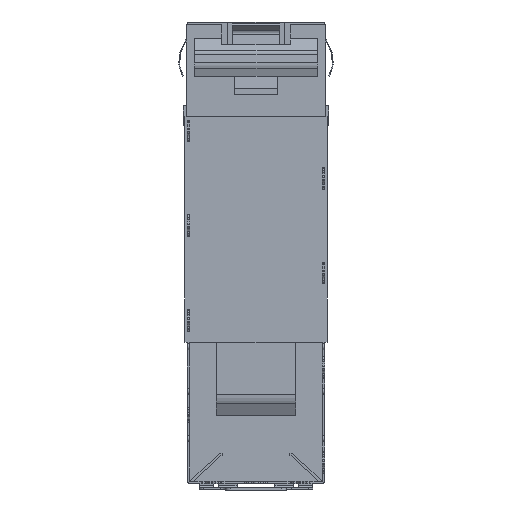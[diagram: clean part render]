
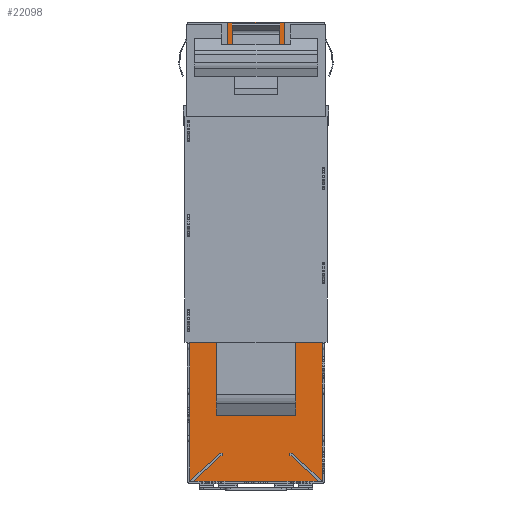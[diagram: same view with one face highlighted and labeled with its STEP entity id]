
A CAD part, front view. The second image highlights one B-rep face of the part: STEP entity #22098.
In plain terms, the highlighted planar face has unit normal (0, -1, 0).
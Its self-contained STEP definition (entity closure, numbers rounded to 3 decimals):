
#51 = FACE_BOUND ( 'NONE', #11834, .T. ) ;
#477 = CARTESIAN_POINT ( 'NONE',  ( 7., 9.2, -65.366 ) ) ;
#1217 = EDGE_CURVE ( 'NONE', #17983, #20127, #8723, .T. ) ;
#1252 = EDGE_LOOP ( 'NONE', ( #17056, #12705, #21107, #11692 ) ) ;
#1574 = VERTEX_POINT ( 'NONE', #14200 ) ;
#2093 = LINE ( 'NONE', #16877, #18791 ) ;
#2618 = LINE ( 'NONE', #13310, #7807 ) ;
#2710 = DIRECTION ( 'NONE',  ( 0., 1., 0. ) ) ;
#2855 = VECTOR ( 'NONE', #15962, 1000. ) ;
#2978 = VERTEX_POINT ( 'NONE', #11458 ) ;
#4453 = ORIENTED_EDGE ( 'NONE', *, *, #20173, .T. ) ;
#4786 = EDGE_CURVE ( 'NONE', #15671, #25238, #9896, .T. ) ;
#5354 = AXIS2_PLACEMENT_3D ( 'NONE', #477, #2710, #17948 ) ;
#6281 = CARTESIAN_POINT ( 'NONE',  ( 7., 9.2, -16.848 ) ) ;
#7067 = VECTOR ( 'NONE', #25056, 1000. ) ;
#7409 = EDGE_CURVE ( 'NONE', #1574, #15671, #17507, .T. ) ;
#7807 = VECTOR ( 'NONE', #19678, 1000. ) ;
#8216 = VECTOR ( 'NONE', #23556, 1000. ) ;
#8437 = DIRECTION ( 'NONE',  ( 1., 0., 0. ) ) ;
#8582 = CARTESIAN_POINT ( 'NONE',  ( 7., 9.2, -41.552 ) ) ;
#8723 = LINE ( 'NONE', #27671, #2855 ) ;
#9305 = EDGE_CURVE ( 'NONE', #20127, #20959, #14051, .T. ) ;
#9896 = LINE ( 'NONE', #8582, #20678 ) ;
#10471 = DIRECTION ( 'NONE',  ( -1., 0., 0. ) ) ;
#11458 = CARTESIAN_POINT ( 'NONE',  ( 7., 9.2, 0. ) ) ;
#11668 = ORIENTED_EDGE ( 'NONE', *, *, #4786, .F. ) ;
#11692 = ORIENTED_EDGE ( 'NONE', *, *, #1217, .F. ) ;
#11834 = EDGE_LOOP ( 'NONE', ( #23421, #4453, #11668, #21424 ) ) ;
#12698 = CARTESIAN_POINT ( 'NONE',  ( 7., 9.2, -48.5 ) ) ;
#12705 = ORIENTED_EDGE ( 'NONE', *, *, #22918, .T. ) ;
#13043 = CARTESIAN_POINT ( 'NONE',  ( -4.2, 9.2, -65.366 ) ) ;
#13082 = DIRECTION ( 'NONE',  ( 0., 0., -1. ) ) ;
#13134 = CARTESIAN_POINT ( 'NONE',  ( -7., 9.2, -48.5 ) ) ;
#13310 = CARTESIAN_POINT ( 'NONE',  ( 4.2, 9.2, -65.366 ) ) ;
#13412 = VERTEX_POINT ( 'NONE', #15535 ) ;
#14051 = LINE ( 'NONE', #17646, #17730 ) ;
#14200 = CARTESIAN_POINT ( 'NONE',  ( -4.2, 9.2, -16.848 ) ) ;
#14227 = LINE ( 'NONE', #22912, #7067 ) ;
#14296 = CARTESIAN_POINT ( 'NONE',  ( 4.2, 9.2, -41.552 ) ) ;
#14396 = CARTESIAN_POINT ( 'NONE',  ( -4.2, 9.2, -41.552 ) ) ;
#15535 = CARTESIAN_POINT ( 'NONE',  ( 4.2, 9.2, -16.848 ) ) ;
#15671 = VERTEX_POINT ( 'NONE', #14396 ) ;
#15962 = DIRECTION ( 'NONE',  ( -1., 0., 0. ) ) ;
#16834 = VECTOR ( 'NONE', #13082, 1000. ) ;
#16877 = CARTESIAN_POINT ( 'NONE',  ( 7., 9.2, 0. ) ) ;
#17056 = ORIENTED_EDGE ( 'NONE', *, *, #21046, .T. ) ;
#17489 = FACE_OUTER_BOUND ( 'NONE', #1252, .T. ) ;
#17507 = LINE ( 'NONE', #13043, #16834 ) ;
#17646 = CARTESIAN_POINT ( 'NONE',  ( -7., 9.2, -65.366 ) ) ;
#17730 = VECTOR ( 'NONE', #17923, 1000. ) ;
#17923 = DIRECTION ( 'NONE',  ( 0., 0., 1. ) ) ;
#17948 = DIRECTION ( 'NONE',  ( 0., 0., 1. ) ) ;
#17983 = VERTEX_POINT ( 'NONE', #12698 ) ;
#18791 = VECTOR ( 'NONE', #10471, 1000. ) ;
#19676 = LINE ( 'NONE', #6281, #8216 ) ;
#19678 = DIRECTION ( 'NONE',  ( 0., 0., -1. ) ) ;
#20127 = VERTEX_POINT ( 'NONE', #13134 ) ;
#20173 = EDGE_CURVE ( 'NONE', #13412, #25238, #2618, .T. ) ;
#20477 = CARTESIAN_POINT ( 'NONE',  ( -7., 9.2, 0. ) ) ;
#20678 = VECTOR ( 'NONE', #8437, 1000. ) ;
#20959 = VERTEX_POINT ( 'NONE', #20477 ) ;
#21046 = EDGE_CURVE ( 'NONE', #17983, #2978, #14227, .T. ) ;
#21107 = ORIENTED_EDGE ( 'NONE', *, *, #9305, .F. ) ;
#21424 = ORIENTED_EDGE ( 'NONE', *, *, #7409, .F. ) ;
#22098 = ADVANCED_FACE ( 'NONE', ( #51, #17489 ), #24330, .F. ) ;
#22912 = CARTESIAN_POINT ( 'NONE',  ( 7., 9.2, -65.366 ) ) ;
#22918 = EDGE_CURVE ( 'NONE', #2978, #20959, #2093, .T. ) ;
#23421 = ORIENTED_EDGE ( 'NONE', *, *, #27511, .F. ) ;
#23556 = DIRECTION ( 'NONE',  ( -1., 0., 0. ) ) ;
#24330 = PLANE ( 'NONE',  #5354 ) ;
#25056 = DIRECTION ( 'NONE',  ( 0., 0., 1. ) ) ;
#25238 = VERTEX_POINT ( 'NONE', #14296 ) ;
#27511 = EDGE_CURVE ( 'NONE', #13412, #1574, #19676, .T. ) ;
#27671 = CARTESIAN_POINT ( 'NONE',  ( 7., 9.2, -48.5 ) ) ;
